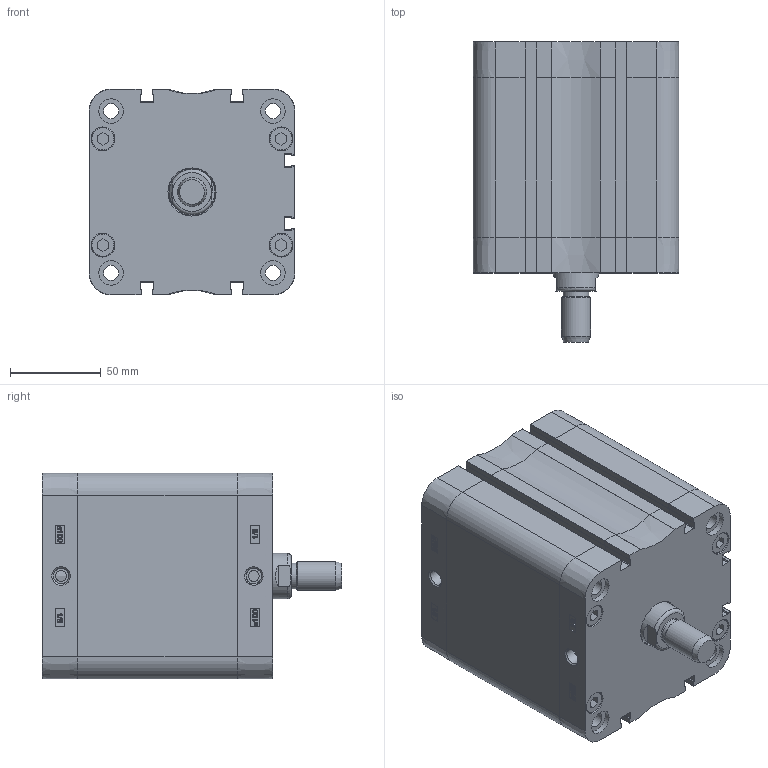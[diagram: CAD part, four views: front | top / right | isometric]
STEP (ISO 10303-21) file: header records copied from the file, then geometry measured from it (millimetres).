
FILE_DESCRIPTION((''),'2;1');
FILE_NAME('T:\Archivio Inventor\- CATALOGHI 2012\SERIE P - NUOVA\PDM\PDM100\PDM100.---.GS.M\PDM100.060.GS.M.stp','2013-02-05T11:42:39',('Administrator'),(''),'Autodesk Inventor 2012','Autodesk Inventor 2012','');
FILE_SCHEMA(('CONFIG_CONTROL_DESIGN'));
Length unit declared in the file: millimetre
Products named in the file (1): PDM100.060.GS.M
Bounding box: 113.3 x 165 x 113.3 mm (x, y, z)
Volume: 698601.7 mm3; surface area: 199292.4 mm2
Topology: 1 solids, 5 shells, 908 faces, 2136 edges, 1312 vertices
Faces by surface type: plane 371, bspline 226, cylinder 148, cone 81, torus 58, sphere 24
Full cylindrical faces by diameter (mm): 6 x2, 8.3 x4, 8.376 x8, 8.566 x2, 9.976 x4, 12 x1, 12.7 x8, 13.1 x8, 13.5 x8, 14 x1, 16 x1, 25 x1, 25.5 x1, 100 x1, 103.5 x1, 103.7 x1
Entity records: 29567 total; most frequent: CARTESIAN_POINT 9699, ORIENTED_EDGE 4030, DIRECTION 3400, EDGE_CURVE 2015, VERTEX_POINT 1291, AXIS2_PLACEMENT_3D 1208, EDGE_LOOP 1088, VECTOR 984
